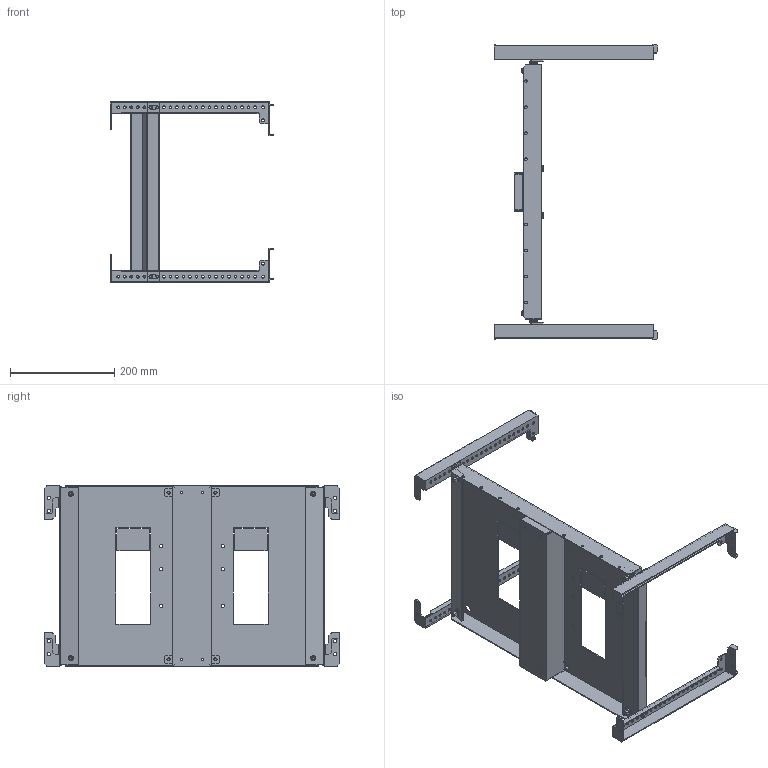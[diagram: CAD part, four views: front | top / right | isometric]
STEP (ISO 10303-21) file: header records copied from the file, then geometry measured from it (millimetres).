
FILE_DESCRIPTION (( 'STEP AP214' ), '1' );
FILE_NAME ('FO-00-HIW-035-060 Êîìïëåêò ãîðèçîíòàëüíîé óñòàíîâêè ARMAT MCCB òèïîðàçìåð H I âûêàòíîãî èñïîëíåíèÿ 3II4P 350õ600 ìì.STEP', '2025-07-16T07:19:33', ( '' ), ( '' ), 'SwSTEP 2.0', 'SolidWorks 2023', '' );
FILE_SCHEMA (( 'AUTOMOTIVE_DESIGN' ));
Length unit declared in the file: millimetre
Products named in the file (5): Траверса горизонтальная; Панель монтажная H I выкатная 350x600; FO-00-HIW-035-060 Комплект горизонтальной установки ARMAT MCCB типоразмер H I выкатного исполнения 3II4P 350х600 мм; Винты DIN 912 4xM6x20 350x600; Траверса горизонтальнаяD
Assembly tree (6 placements, depth 2):
  FO-00-HIW-035-060 Комплект горизонтальной установки ARMAT MCCB типоразмер H I выкатного исполнения 3II4P 350х600 мм
    Панель монтажная H I выкатная 350x600
    Винты DIN 912 4xM6x20 350x600
    Траверса горизонтальная  x2
    Траверса горизонтальнаяD  x2
Bounding box: 314.5 x 565.63 x 347 mm (x, y, z)
Volume: 754556.6 mm3; surface area: 804810.8 mm2
Topology: 9 solids, 17 shells, 1322 faces, 3596 edges, 2364 vertices
Faces by surface type: plane 646, cylinder 556, cone 72, torus 48
Entity records: 35983 total; most frequent: CARTESIAN_POINT 7067, DIRECTION 6092, ORIENTED_EDGE 5860, EDGE_CURVE 2930, AXIS2_PLACEMENT_3D 2137, VERTEX_POINT 1920, LINE 1818, VECTOR 1818
